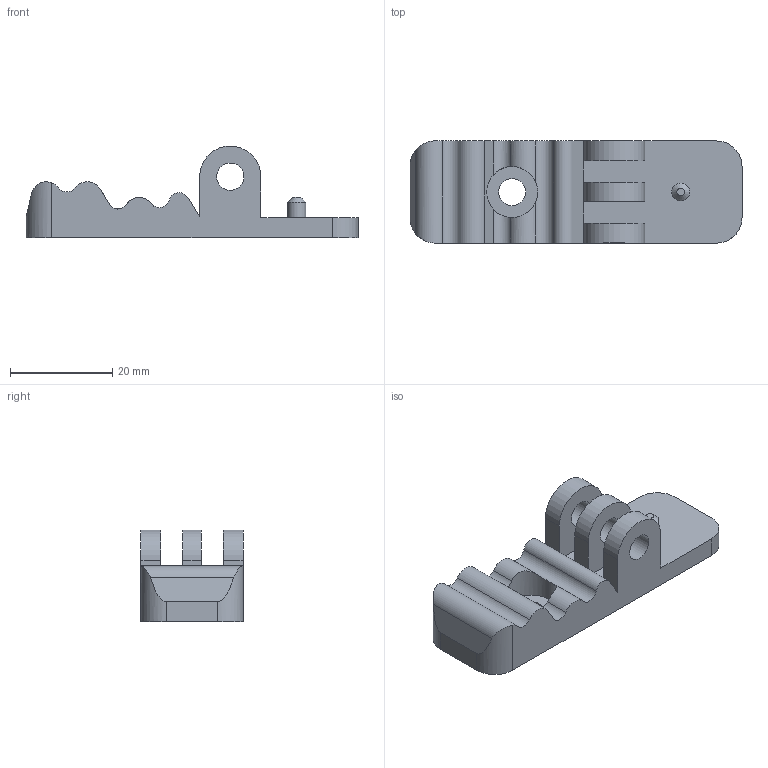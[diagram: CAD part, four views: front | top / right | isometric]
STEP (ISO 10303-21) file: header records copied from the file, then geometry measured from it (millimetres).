
FILE_DESCRIPTION(/* description */ (''),/* implementation_level */ '2;1');
FILE_NAME(/* name */ 'Clip 1.step',/* time_stamp */ '2025-04-22T12:36:14+05:30',/* author */ (''),/* organization */ (''),/* preprocessor_version */ 'ST-DEVELOPER v20.1',/* originating_system */ 'Autodesk Translation Framework v14.4.0.0',/* authorisation */ '');
FILE_SCHEMA (('AUTOMOTIVE_DESIGN { 1 0 10303 214 3 1 1 }'));
Length unit declared in the file: millimetre
Products named in the file (1): Clip 1
Bounding box: 65 x 20 x 18 mm (x, y, z)
Volume: 9095.7 mm3; surface area: 5158.6 mm2
Topology: 1 solids, 1 shells, 46 faces, 124 edges, 81 vertices
Faces by surface type: plane 23, cylinder 22, cone 1
Full cylindrical faces by diameter (mm): 3.5 x1, 5.3 x4, 10 x1
Entity records: 1581 total; most frequent: CARTESIAN_POINT 344, DIRECTION 251, ORIENTED_EDGE 248, EDGE_CURVE 124, AXIS2_PLACEMENT_3D 88, VERTEX_POINT 81, LINE 75, VECTOR 75
